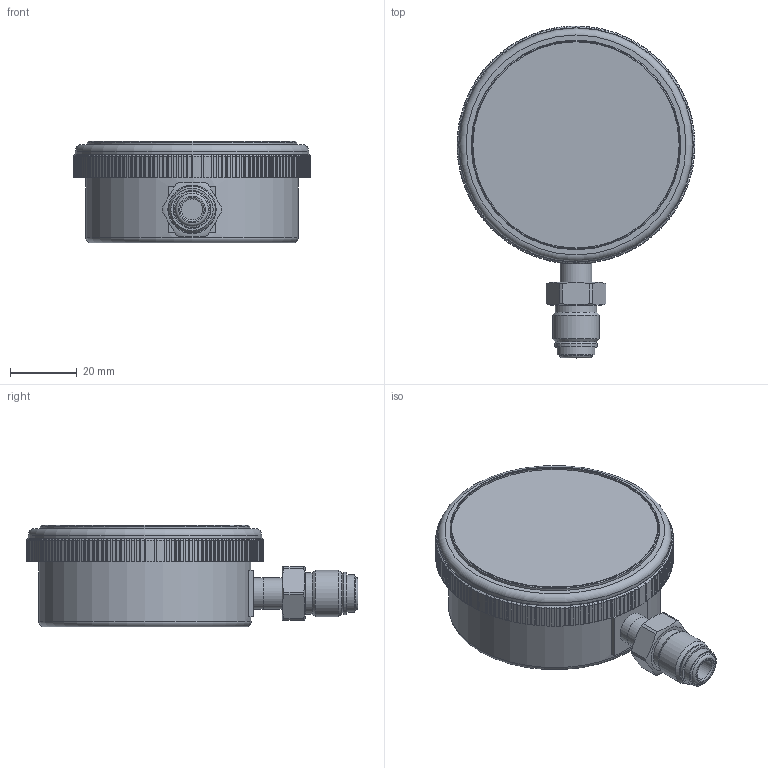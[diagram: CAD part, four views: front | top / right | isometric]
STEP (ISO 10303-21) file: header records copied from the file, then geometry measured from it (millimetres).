
FILE_DESCRIPTION(/* description */ (''),/* implementation_level */ '2;1');
FILE_NAME(/* name */ 'P800_63PI_LOW MOUNT_SWIVEL(M).stp',/* time_stamp */ '2025-03-31T08:21:21+09:00',/* author */ ('wise-209'),/* organization */ (''),/* preprocessor_version */ 'ST-DEVELOPER v19.2',/* originating_system */ 'Autodesk Inventor 2024',/* authorisation */ '');
FILE_SCHEMA (('AUTOMOTIVE_DESIGN { 1 0 10303 214 3 1 1 }'));
Length unit declared in the file: millimetre
Products named in the file (3): P8X0_63mm_A Type_SM_ASSY; COVER; 3054016361
Assembly tree (2 placements, depth 2):
  P8X0_63mm_A Type_SM_ASSY
    COVER
    3054016361
Bounding box: 71.5 x 99.75 x 30.5 mm (x, y, z)
Volume: 106752.9 mm3; surface area: 16699.9 mm2
Topology: 2 solids, 2 shells, 630 faces, 1840 edges, 1224 vertices
Faces by surface type: plane 456, cylinder 160, torus 7, cone 7
Full cylindrical faces by diameter (mm): 6.3 x1, 9.53 x2, 11.4 x1, 12.5 x1, 12.7 x1, 14 x1, 63 x1, 63.8 x1, 70.1 x1
Entity records: 23160 total; most frequent: CARTESIAN_POINT 6466, ORIENTED_EDGE 3680, DIRECTION 3295, EDGE_CURVE 1840, LINE 1335, VECTOR 1335, VERTEX_POINT 1224, AXIS2_PLACEMENT_3D 980
